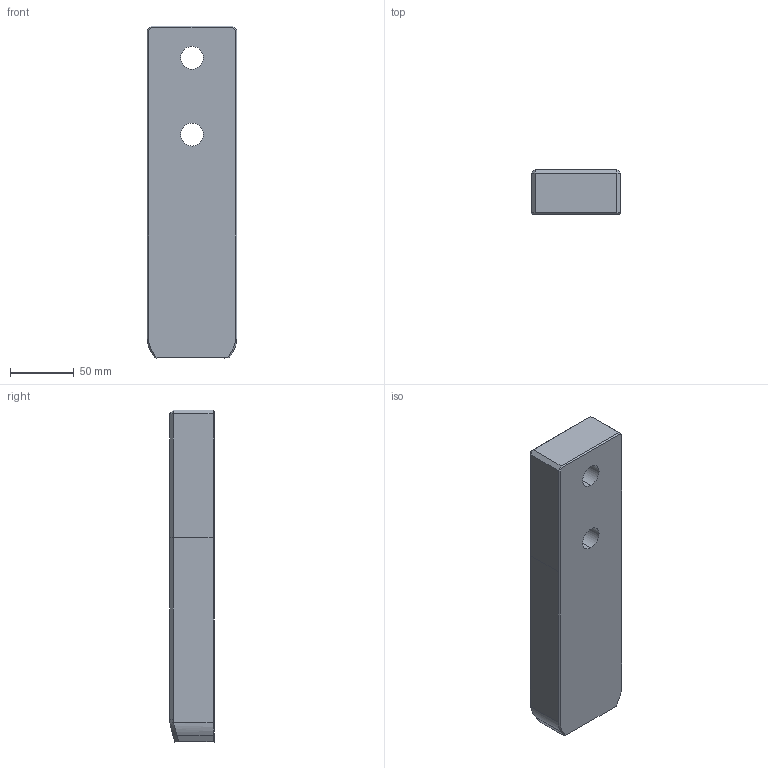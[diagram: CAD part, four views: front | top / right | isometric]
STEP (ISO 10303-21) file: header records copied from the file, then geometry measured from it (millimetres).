
FILE_DESCRIPTION((''),'2;1');
FILE_NAME('','2010-09-08T12:51:00+09:00',('misumi'),(''),'M/STEP i/f 1R2-14','CADmeister v5.1','');
FILE_SCHEMA(('AUTOMOTIVE_DESIGN'));
Length unit declared in the file: millimetre
Products named in the file (1): OGP70-260
Bounding box: 70 x 35 x 260 mm (x, y, z)
Volume: 608413.2 mm3; surface area: 61330.2 mm2
Topology: 1 solids, 1 shells, 49 faces, 114 edges, 68 vertices
Faces by surface type: plane 32, cylinder 9, cone 4, bspline 4
Entity records: 2151 total; most frequent: CARTESIAN_POINT 494, ORIENTED_EDGE 224, DIRECTION 216, COLOUR_RGB 121, CURVE_STYLE 118, PRESENTATION_STYLE_ASSIGNMENT 117, OVER_RIDING_STYLED_ITEM 114, EDGE_CURVE 112
